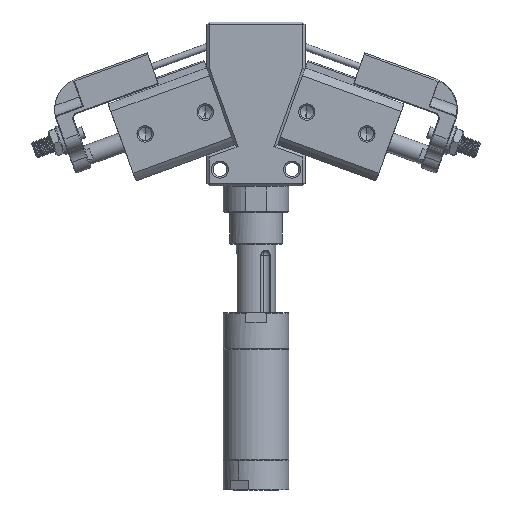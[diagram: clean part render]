
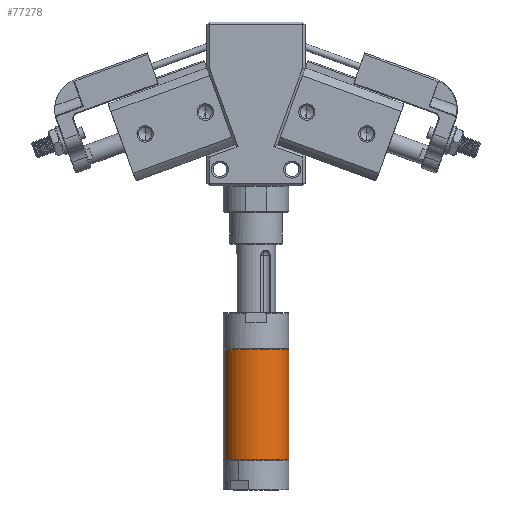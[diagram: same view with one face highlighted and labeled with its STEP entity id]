
A CAD part, front view. The second image highlights one B-rep face of the part: STEP entity #77278.
In plain terms, the highlighted cylindrical face has radius 10 mm (diameter 20 mm), a partial arc.
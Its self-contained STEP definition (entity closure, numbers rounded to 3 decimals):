
#1172 = CARTESIAN_POINT ( 'NONE',  ( -16.182, -3.961, -99.9 ) ) ;
#1502 = VERTEX_POINT ( 'NONE', #1172 ) ;
#8109 = CARTESIAN_POINT ( 'NONE',  ( -16.182, -3.961, -88.7 ) ) ;
#8418 = VERTEX_POINT ( 'NONE', #41914 ) ;
#11315 = AXIS2_PLACEMENT_3D ( 'NONE', #40207, #18451, #40678 ) ;
#12835 = CARTESIAN_POINT ( 'NONE',  ( -7., 0., -88.7 ) ) ;
#17686 = EDGE_CURVE ( 'NONE', #1502, #52746, #68002, .T. ) ;
#18451 = DIRECTION ( 'NONE',  ( 0., 0., 1. ) ) ;
#23319 = DIRECTION ( 'NONE',  ( -0.918, -0.396, 0. ) ) ;
#26089 = CARTESIAN_POINT ( 'NONE',  ( 2.182, 3.961, -88.7 ) ) ;
#31027 = FACE_OUTER_BOUND ( 'NONE', #75648, .T. ) ;
#32390 = LINE ( 'NONE', #26089, #44098 ) ;
#36523 = CARTESIAN_POINT ( 'NONE',  ( 2.182, 3.961, -99.9 ) ) ;
#36541 = ORIENTED_EDGE ( 'NONE', *, *, #17686, .T. ) ;
#38277 = DIRECTION ( 'NONE',  ( 0., 0., -1. ) ) ;
#38458 = ORIENTED_EDGE ( 'NONE', *, *, #54721, .T. ) ;
#40207 = CARTESIAN_POINT ( 'NONE',  ( -7., 0., -133.5 ) ) ;
#40678 = DIRECTION ( 'NONE',  ( 0.918, 0.396, 0. ) ) ;
#40778 = DIRECTION ( 'NONE',  ( 0.918, 0.396, 0. ) ) ;
#41244 = DIRECTION ( 'NONE',  ( 0., 0., -1. ) ) ;
#41914 = CARTESIAN_POINT ( 'NONE',  ( 2.182, 3.961, -133.5 ) ) ;
#44098 = VECTOR ( 'NONE', #70497, 1000. ) ;
#52591 = AXIS2_PLACEMENT_3D ( 'NONE', #12835, #38277, #23319 ) ;
#52746 = VERTEX_POINT ( 'NONE', #85813 ) ;
#54721 = EDGE_CURVE ( 'NONE', #88454, #1502, #80805, .T. ) ;
#59791 = DIRECTION ( 'NONE',  ( 0., 0., -1. ) ) ;
#63447 = CARTESIAN_POINT ( 'NONE',  ( -7., 0., -99.9 ) ) ;
#65615 = ORIENTED_EDGE ( 'NONE', *, *, #89971, .F. ) ;
#68002 = LINE ( 'NONE', #8109, #82209 ) ;
#69972 = AXIS2_PLACEMENT_3D ( 'NONE', #63447, #41244, #40778 ) ;
#70497 = DIRECTION ( 'NONE',  ( 0., 0., -1. ) ) ;
#75648 = EDGE_LOOP ( 'NONE', ( #65615, #38458, #36541, #89415 ) ) ;
#77278 = ADVANCED_FACE ( 'NONE', ( #31027 ), #93946, .T. ) ;
#80805 = CIRCLE ( 'NONE', #69972, 10. ) ;
#82209 = VECTOR ( 'NONE', #59791, 1000. ) ;
#85630 = EDGE_CURVE ( 'NONE', #52746, #8418, #93051, .T. ) ;
#85813 = CARTESIAN_POINT ( 'NONE',  ( -16.182, -3.961, -133.5 ) ) ;
#88454 = VERTEX_POINT ( 'NONE', #36523 ) ;
#89415 = ORIENTED_EDGE ( 'NONE', *, *, #85630, .T. ) ;
#89971 = EDGE_CURVE ( 'NONE', #88454, #8418, #32390, .T. ) ;
#93051 = CIRCLE ( 'NONE', #11315, 10. ) ;
#93946 = CYLINDRICAL_SURFACE ( 'NONE', #52591, 10. ) ;
